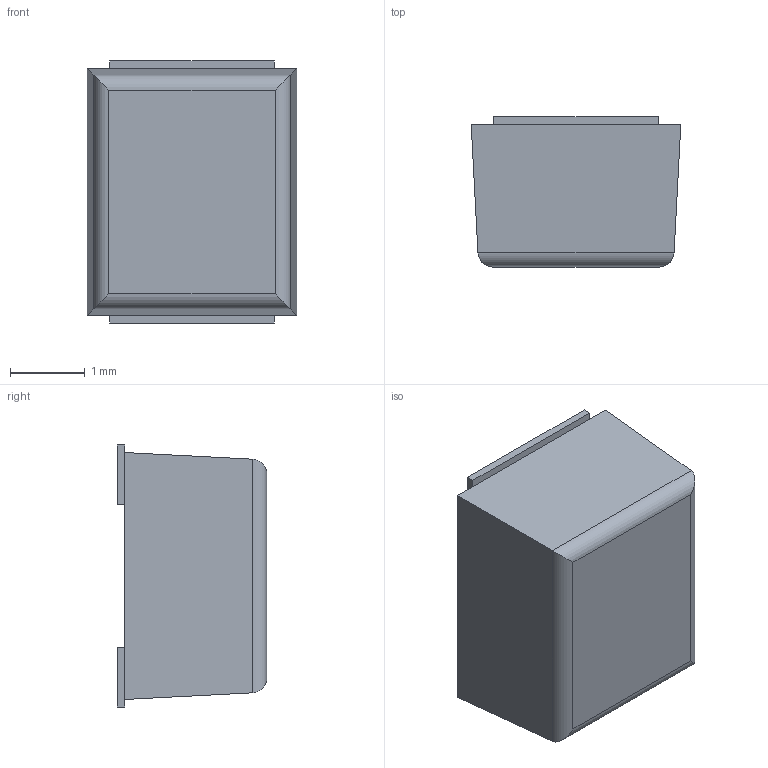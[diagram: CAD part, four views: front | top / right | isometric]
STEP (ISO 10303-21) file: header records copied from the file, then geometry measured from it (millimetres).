
FILE_DESCRIPTION(/* description */ (''),/* implementation_level */ '2;1');
FILE_NAME(/* name */ 'C:\Users\5146755\Documents\NVIDEA\STEPfile\B2S.stp',/* time_stamp */ '2016-06-13T11:21:08+09:00',/* author */ ('5146755'),/* organization */ (''),/* preprocessor_version */ 'ST-DEVELOPER v16.1',/* originating_system */ 'Autodesk Inventor 2016',/* authorisation */ '');
FILE_SCHEMA (('AUTOMOTIVE_DESIGN { 1 0 10303 214 3 1 1 }'));
Length unit declared in the file: millimetre
Products named in the file (3): mold-B2S; Flame-B2S; B2S
Assembly tree (3 placements, depth 2):
  B2S
    mold-B2S
    Flame-B2S  x2
Bounding box: 2.8 x 2 x 3.5 mm (x, y, z)
Volume: 16.7 mm3; surface area: 47.1 mm2
Topology: 3 solids, 3 shells, 22 faces, 44 edges, 28 vertices
Faces by surface type: plane 18, cylinder 4
Entity records: 498 total; most frequent: DIRECTION 80, CARTESIAN_POINT 74, ORIENTED_EDGE 64, EDGE_CURVE 32, LINE 28, VECTOR 28, AXIS2_PLACEMENT_3D 26, VERTEX_POINT 20
